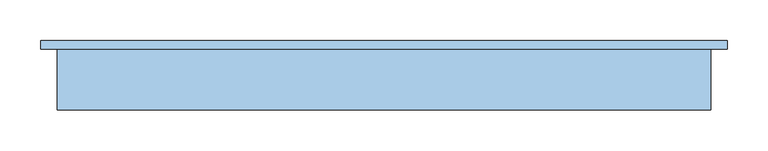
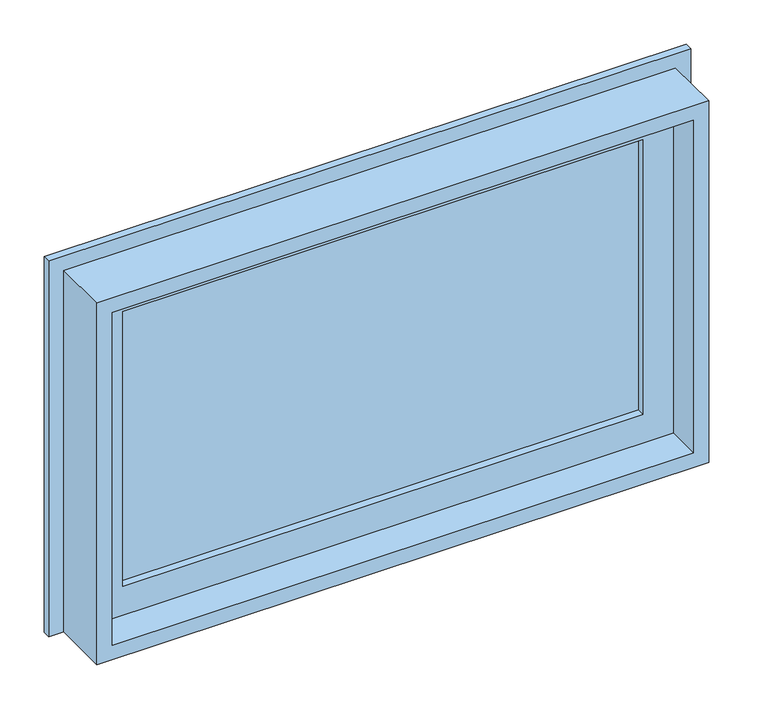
"""IFC4 building model written with IfcOpenShell, lengths in millimetres: window geometry, JA Maxim Ar 1F1 : Maxim Ar 0,80x0,50."""

import ifcopenshell
import ifcopenshell.guid

model = None  # the IFC model being written
_history = None  # IfcOwnerHistory: only IFC2X3 demands one
_inside = {}  # id of a spatial element -> (the spatial element, [elements in it])
_under = {}  # id of a project, library or spatial element -> (it, [spatial elements below it])
_declared = {}  # id of a project -> (the project, [libraries it declares])
_typed = {}  # id of a type object -> (the type object, [elements of that type])
_made_of = {}  # id of a material, layer set ... -> (it, [elements and type objects made of it])


def new_model(schema):
    """Start an empty IFC model of exactly this schema.

    Asked for "IFC4X3", IfcOpenShell would pick the latest addendum, in which some entities
    have other attributes; the version numbers below select the first issue.
    IFC2X3 requires an IfcOwnerHistory on every rooted entity: one is made here for all.
    """
    global model, _history
    if schema == "IFC4X3":
        model = ifcopenshell.file(schema_version=(4, 3, 0, 0))
    else:
        model = ifcopenshell.file(schema=schema)
    _inside.clear()
    _under.clear()
    _declared.clear()
    _typed.clear()
    _made_of.clear()
    _history = None
    if model.schema == "IFC2X3":
        org = make("IfcOrganization", Name="unknown")
        user = make(
            "IfcPersonAndOrganization",
            ThePerson=make("IfcPerson", FamilyName="unknown"),
            TheOrganization=org,
        )
        app = make(
            "IfcApplication",
            ApplicationDeveloper=org,
            Version="unknown",
            ApplicationFullName="unknown",
            ApplicationIdentifier="unknown",
        )
        _history = make(
            "IfcOwnerHistory",
            OwningUser=user,
            OwningApplication=app,
            ChangeAction="ADDED",
            CreationDate=0,
        )
    return model


def make(cls, **values):
    """One entity of the class cls with the attributes given. An attribute that is None is left unset."""
    return model.create_entity(
        cls, **{name: value for name, value in values.items() if value is not None}
    )


def rooted(cls, **values):
    """An entity with a GlobalId (a new one), such as an element, a storey or a relation."""
    return make(cls, GlobalId=ifcopenshell.guid.new(), OwnerHistory=_history, **values)


def si_unit(unit_type, name, prefix=None):
    """IfcSIUnit, for example si_unit("LENGTHUNIT", "METRE", prefix="MILLI")."""
    return make("IfcSIUnit", UnitType=unit_type, Prefix=prefix, Name=name)


def assignment(units):
    """IfcUnitAssignment: the units of a project."""
    return None if units is None else make("IfcUnitAssignment", Units=units)


def point(xyz):
    """IfcCartesianPoint."""
    return None if xyz is None else make("IfcCartesianPoint", Coordinates=xyz)


def direction(xyz):
    """IfcDirection."""
    return None if xyz is None else make("IfcDirection", DirectionRatios=xyz)


def frame(location, z_axis=None, x_axis=None):
    """IfcAxis2Placement3D, a coordinate frame: its origin and axes. An axis left out is left unset."""
    return make(
        "IfcAxis2Placement3D",
        Location=point(location),
        Axis=direction(z_axis),
        RefDirection=direction(x_axis),
    )


def origin():
    """The frame at (0, 0, 0) with its axes left unset."""
    return frame((0.0, 0.0, 0.0))


def place(relative_to, where):
    """IfcLocalPlacement: puts the frame where relative to a parent placement (None: the world)."""
    return make(
        "IfcLocalPlacement", PlacementRelTo=relative_to, RelativePlacement=where
    )


def context(
    kind, dimensions, precision=None, world=None, true_north=None, identifier=None
):
    """IfcGeometricRepresentationContext, for example the 3D "Model" context."""
    return make(
        "IfcGeometricRepresentationContext",
        ContextIdentifier=identifier,
        ContextType=kind,
        CoordinateSpaceDimension=dimensions,
        Precision=precision,
        WorldCoordinateSystem=world,
        TrueNorth=true_north,
    )


def project(units=None, contexts=None):
    """IfcProject with its units and contexts."""
    return rooted(
        "IfcProject",
        Name="project",
        RepresentationContexts=contexts,
        UnitsInContext=assignment(units),
    )


def spatial(cls, under=None, at=None, **own):
    """A site, building, storey or space (cls), placed at a placement, below another one or the project."""
    s = rooted(cls, ObjectPlacement=at, **own)
    if under is not None:
        _under.setdefault(under.id(), (under, []))[1].append(s)
    return s


def polyline(points):
    """IfcPolyline through the points."""
    return make("IfcPolyline", Points=[point(p) for p in points])


def outline(outer, holes=None, kind="AREA"):
    """IfcArbitraryClosedProfileDef: a profile drawn as a closed curve; with holes, ...WithVoids."""
    if holes is None:
        return make("IfcArbitraryClosedProfileDef", ProfileType=kind, OuterCurve=outer)
    return make(
        "IfcArbitraryProfileDefWithVoids",
        ProfileType=kind,
        OuterCurve=outer,
        InnerCurves=holes,
    )


def extrude(swept, where, along, depth):
    """IfcExtrudedAreaSolid: the profile swept, set in the frame where, extruded along a direction by depth."""
    return make(
        "IfcExtrudedAreaSolid",
        SweptArea=swept,
        Position=where,
        ExtrudedDirection=direction(along),
        Depth=depth,
    )


def faces_of(points, faces, orient=None, outer=None):
    """IfcFace entities. A face is a list of loops; a loop is a list of indices into points, from 0.

    orient and outer hold one flag for each loop. By default every Orientation is true, the
    first loop of a face is its IfcFaceOuterBound and the others are IfcFaceBound.
    """
    made = []
    for i, loops in enumerate(faces):
        bounds = []
        for j, loop in enumerate(loops):
            is_outer = j == 0 if outer is None else outer[i][j]
            bounds.append(
                make(
                    "IfcFaceOuterBound" if is_outer else "IfcFaceBound",
                    Bound=make("IfcPolyLoop", Polygon=[points[k] for k in loop]),
                    Orientation=True if orient is None else orient[i][j],
                )
            )
        made.append(make("IfcFace", Bounds=bounds))
    return made


def faceted_brep(points, faces, orient=None, outer=None, voids=None):
    """IfcFacetedBrep: a solid bounded by flat faces; with voids (closed shells), ...WithVoids."""
    shared = [point(p) for p in points]
    hull = make("IfcClosedShell", CfsFaces=faces_of(shared, faces, orient, outer))
    if voids is None:
        return make("IfcFacetedBrep", Outer=hull)
    return make(
        "IfcFacetedBrepWithVoids",
        Outer=hull,
        Voids=[
            make(cls, CfsFaces=faces_of(shared, fs, o, b)) for cls, fs, o, b in voids
        ],
    )


def shape(context_of_items, identifier, shape_type, items):
    """IfcShapeRepresentation: the items that make up one representation, for example the "Body"."""
    return make(
        "IfcShapeRepresentation",
        ContextOfItems=context_of_items,
        RepresentationIdentifier=identifier,
        RepresentationType=shape_type,
        Items=items,
    )


def source(mapping_origin, context_of_items, identifier, shape_type, items):
    """IfcRepresentationMap: a shape defined once, which mapped items show again and again."""
    return make(
        "IfcRepresentationMap",
        MappingOrigin=mapping_origin,
        MappedRepresentation=shape(context_of_items, identifier, shape_type, items),
    )


def transform(
    local_origin,
    x_axis=None,
    y_axis=None,
    z_axis=None,
    scale=None,
    scale2=None,
    scale3=None,
    uniform=True,
):
    """IfcCartesianTransformationOperator3D, or its non-uniform kind. x_axis, y_axis, z_axis: its Axis1, 2, 3."""
    if uniform:
        return make(
            "IfcCartesianTransformationOperator3D",
            Axis1=direction(x_axis),
            Axis2=direction(y_axis),
            LocalOrigin=point(local_origin),
            Scale=scale,
            Axis3=direction(z_axis),
        )
    return make(
        "IfcCartesianTransformationOperator3DnonUniform",
        Axis1=direction(x_axis),
        Axis2=direction(y_axis),
        LocalOrigin=point(local_origin),
        Scale=scale,
        Axis3=direction(z_axis),
        Scale2=scale2,
        Scale3=scale3,
    )


def mapped(mapping_source, mapping_target):
    """IfcMappedItem: shows the shape of a source again, moved by a transform."""
    return make(
        "IfcMappedItem", MappingSource=mapping_source, MappingTarget=mapping_target
    )


def made_of(thing, what):
    """Note that an element or type object is made of a material, layer set ...; save() writes the relation."""
    if what is not None:
        _made_of.setdefault(what.id(), (what, []))[1].append(thing)
    return thing


def element(
    cls,
    number,
    at=None,
    inside=None,
    cuts=None,
    type_object=None,
    material=None,
    context=None,
    identifier="Body",
    shape_type=None,
    held_by="IfcProductDefinitionShape",
    body=None,
    shapes=None,
    **own,
):
    """One element of the class cls, such as IfcWall. Its Tag is "e" and its number.

    at: its placement. inside: the storey or other place that contains it. cuts: it is an
    opening in that element (IfcRelVoidsElement). A single representation is given by context,
    identifier, shape_type and body (its items); several are given by shapes. held_by: the class
    of the entity that holds the representations. save() writes the other relations.
    """
    e = rooted(cls, Tag="e%d" % number, ObjectPlacement=at, **own)
    if body is not None:
        shapes = [shape(context, identifier, shape_type, body)]
    if shapes is not None:
        e.Representation = make(held_by, Representations=shapes)
    if inside is not None:
        _inside.setdefault(inside.id(), (inside, []))[1].append(e)
    if cuts is not None:
        rooted(
            "IfcRelVoidsElement", RelatingBuildingElement=cuts, RelatedOpeningElement=e
        )
    if type_object is not None:
        _typed.setdefault(type_object.id(), (type_object, []))[1].append(e)
    return made_of(e, material)


def aggregate(whole, parts):
    """IfcRelAggregates: a whole, such as a stair, and the parts it consists of."""
    return rooted("IfcRelAggregates", RelatingObject=whole, RelatedObjects=parts)


def save(model, path):
    """Write the relations noted so far, then the file.

    IfcRelAggregates (storeys below a building ...), IfcRelContainedInSpatialStructure (elements
    in a storey), IfcRelDefinesByType, IfcRelAssociatesMaterial and IfcRelDeclares: one each for
    every whole, place, type object, material and project.
    """
    for whole, parts in _under.values():
        aggregate(whole, parts)
    for where, things in _inside.values():
        rooted(
            "IfcRelContainedInSpatialStructure",
            RelatedElements=things,
            RelatingStructure=where,
        )
    for kind, things in _typed.values():
        rooted("IfcRelDefinesByType", RelatedObjects=things, RelatingType=kind)
    for what, things in _made_of.values():
        rooted("IfcRelAssociatesMaterial", RelatedObjects=things, RelatingMaterial=what)
    for by, libraries in _declared.values():
        rooted("IfcRelDeclares", RelatingContext=by, RelatedDefinitions=libraries)
    model.write(path)


def window_51dac84b(model_context):
    return source(origin(), model_context, "Body", "SolidModel", [
        faceted_brep([(-380.0, 70.0000007, 1380.0), (-380.0, 100.0, 1380.0), (-380.0, 100.0, 920.0), (-380.0, 70.0000007, 920.0), (380.0, 100.0, 1380.0), (380.0, 100.0, 920.0), (-340.0000011, 100.0, 959.9999989), (340.0000011, 100.0, 959.9999989), (340.0000011, 100.0, 1340.0000011), (-340.0000011, 100.0, 1340.0000011), (380.0, 70.0000007, 920.0), (380.0, 70.0000007, 1380.0), (-340.0000011, 70.0000007, 1340.0000011), (340.0000011, 70.0000007, 1340.0000011), (340.0000011, 70.0000007, 959.9999989), (-340.0000011, 70.0000007, 959.9999989), (-340.0000011, 79.9999995, 1340.0000011), (-340.0000011, 79.9999995, 959.9999989), (340.0000011, 79.9999995, 959.9999989), (-360.0000006, 79.9999995, 1360.0000006), (360.0000006, 79.9999995, 1360.0000006), (360.0000006, 79.9999995, 939.9999994), (-360.0000006, 79.9999995, 939.9999994), (340.0000011, 79.9999995, 1340.0000011), (-360.0000006, 89.9999993, 1360.0000006), (-360.0000006, 89.9999993, 939.9999994), (360.0000006, 89.9999993, 939.9999994), (360.0000006, 89.9999993, 1360.0000006), (-340.0000011, 89.9999993, 1340.0000011), (340.0000011, 89.9999993, 1340.0000011), (340.0000011, 89.9999993, 959.9999989), (-340.0000011, 89.9999993, 959.9999989)], [[[0, 1, 2, 3]], [[1, 4, 5, 2], [6, 7, 8, 9]], [[3, 2, 5, 10]], [[3, 10, 11, 0], [12, 13, 14, 15]], [[16, 12, 15, 17]], [[17, 15, 14, 18]], [[19, 20, 21, 22], [17, 18, 23, 16]], [[24, 19, 22, 25]], [[25, 22, 21, 26]], [[25, 26, 27, 24], [28, 29, 30, 31]], [[9, 28, 31, 6]], [[6, 31, 30, 7]], [[10, 5, 4, 11]], [[18, 14, 13, 23]], [[26, 21, 20, 27]], [[7, 30, 29, 8]], [[11, 4, 1, 0]], [[23, 13, 12, 16]], [[27, 20, 19, 24]], [[8, 29, 28, 9]]]),
        extrude(outline(polyline([(900.0, -400.0), (900.0, 400.0), (1400.0, 400.0), (1400.0, -400.0), (900.0, -400.0)]), holes=[polyline([(1380.0, -380.0), (1380.0, 380.0), (920.0, 380.0), (920.0, -380.0), (1380.0, -380.0)])]), frame((0.0, 25.0, 0.0), z_axis=(0.0, 1.0, 0.0), x_axis=(0.0, 0.0, 1.0)), (0.0, 0.0, 1.0), 75.0),
        extrude(outline(polyline([(900.0, 380.0), (900.0, 420.0), (1420.0, 420.0), (1420.0, -420.0), (900.0, -420.0), (900.0, -380.0), (1380.0, -380.0), (1380.0, 380.0), (900.0, 380.0)])), frame((0.0, 100.0, 0.0), z_axis=(0.0, 1.0, 0.0), x_axis=(0.0, 0.0, 1.0)), (0.0, 0.0, 1.0), 10.0),
        extrude(outline(polyline([(360.0000006, 79.9999995), (-360.0000006, 79.9999995), (-360.0000006, 89.9999993), (360.0000006, 89.9999993), (360.0000006, 79.9999995)])), frame((0.0, 0.0, 939.9999994), z_axis=(0.0, 0.0, 1.0), x_axis=(1.0, 0.0, 0.0)), (0.0, 0.0, 1.0), 420.0000011),
    ])


if __name__ == "__main__":
    model = new_model("IFC4")
    model_context = context("Model", 3, world=origin())
    ifc_project = project(units=[si_unit("LENGTHUNIT", "METRE", prefix="MILLI")], contexts=[model_context])
    site = spatial("IfcSite", under=ifc_project)
    building = spatial("IfcBuilding", under=site)
    placement = place(None, origin())
    window_shape = window_51dac84b(model_context)
    element("IfcWindow", 1, ObjectType="JA Maxim Ar 1F1 : Maxim Ar 0,80x0,50", at=placement, inside=building, context=model_context, shape_type="MappedRepresentation", body=[
        mapped(window_shape, transform((0.0, 0.0, 0.0), x_axis=(1.0, 0.0, 0.0), y_axis=(0.0, 1.0, 0.0), z_axis=(0.0, 0.0, 1.0))),
    ])
    save(model, "model.ifc")
